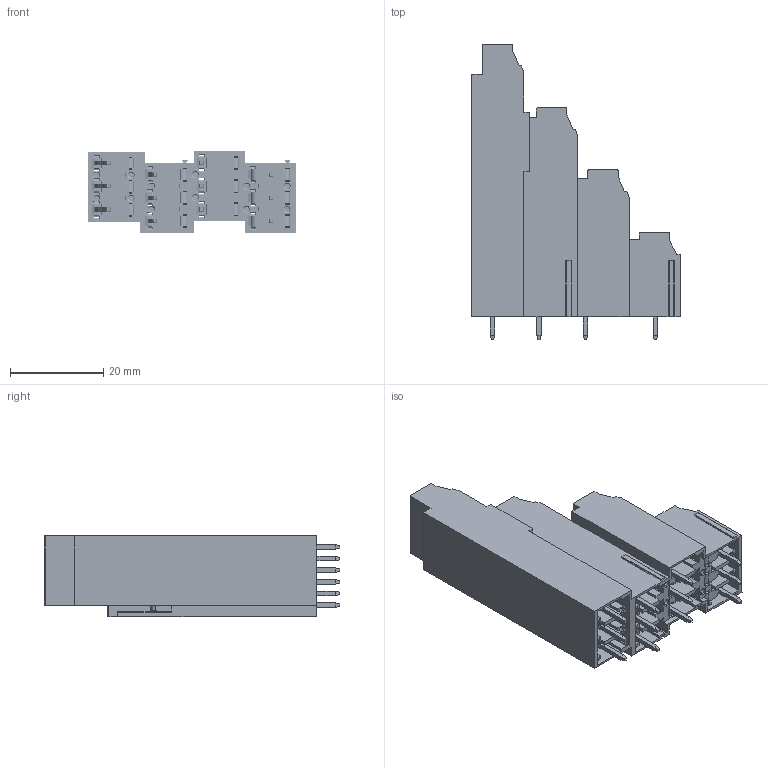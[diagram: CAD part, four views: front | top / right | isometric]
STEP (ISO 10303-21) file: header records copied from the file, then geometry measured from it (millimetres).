
FILE_DESCRIPTION((''),'2;1');
FILE_NAME('PRT0001','2021-04-19T',('guoxue_sz'),(''),'CREO PARAMETRIC BY PTC INC, 2016260','CREO PARAMETRIC BY PTC INC, 2016260','');
FILE_SCHEMA(('CONFIG_CONTROL_DESIGN'));
Products named in the file (1): PRT0001
Bounding box: 44.8 x 63.5 x 17.5 mm (x, y, z)
Volume: 12252.4 mm3; surface area: 27689.3 mm2
Topology: 4 solids, 6 shells, 3635 faces, 10132 edges, 6655 vertices
Faces by surface type: plane 1884, cylinder 914, bspline 624, cone 93, torus 84, extrusion 24, sphere 12
Entity records: 190402 total; most frequent: CARTESIAN_POINT 101920, ORIENTED_EDGE 20264, DIRECTION 15130, EDGE_CURVE 10132, VERTEX_POINT 6655, VECTOR 6544, LINE 6520, AXIS2_PLACEMENT_3D 4293
